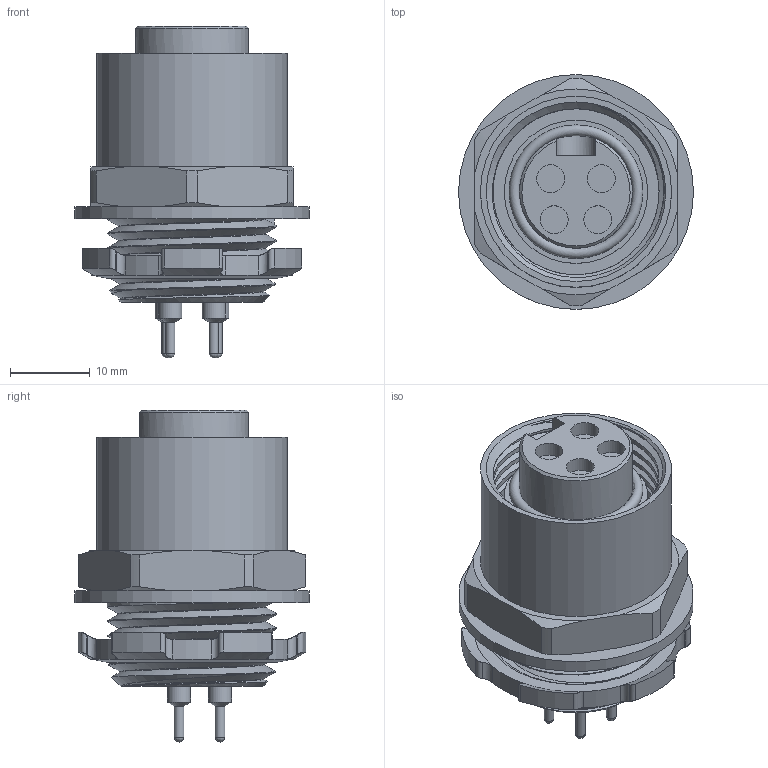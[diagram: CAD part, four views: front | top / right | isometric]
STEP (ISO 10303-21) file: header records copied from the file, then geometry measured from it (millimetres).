
FILE_DESCRIPTION (( 'STEP AP203' ), '1' );
FILE_NAME ('Part21^Assem1.STEP', '2022-04-06T08:15:17', ( '' ), ( '' ), 'SwSTEP 2.0', 'SolidWorks 2018', '' );
FILE_SCHEMA (( 'CONFIG_CONTROL_DESIGN' ));
Length unit declared in the file: millimetre
Products named in the file (1): Part21^Assem1
Bounding box: 29.5 x 29.5 x 41.7 mm (x, y, z)
Volume: 13489.8 mm3; surface area: 6364.6 mm2
Topology: 1 solids, 1 shells, 157 faces, 398 edges, 250 vertices
Faces by surface type: cylinder 66, plane 39, cone 35, bspline 12, sphere 4, torus 1
Full cylindrical faces by diameter (mm): 1.2 x4, 2.9 x4, 3.5 x4, 14.2 x1, 18 x1, 20.86 x4, 24 x1, 29.5 x1
Entity records: 10270 total; most frequent: CARTESIAN_POINT 6980, ORIENTED_EDGE 680, DIRECTION 590, EDGE_CURVE 340, AXIS2_PLACEMENT_3D 252, VERTEX_POINT 230, EDGE_LOOP 196, FACE_OUTER_BOUND 170
